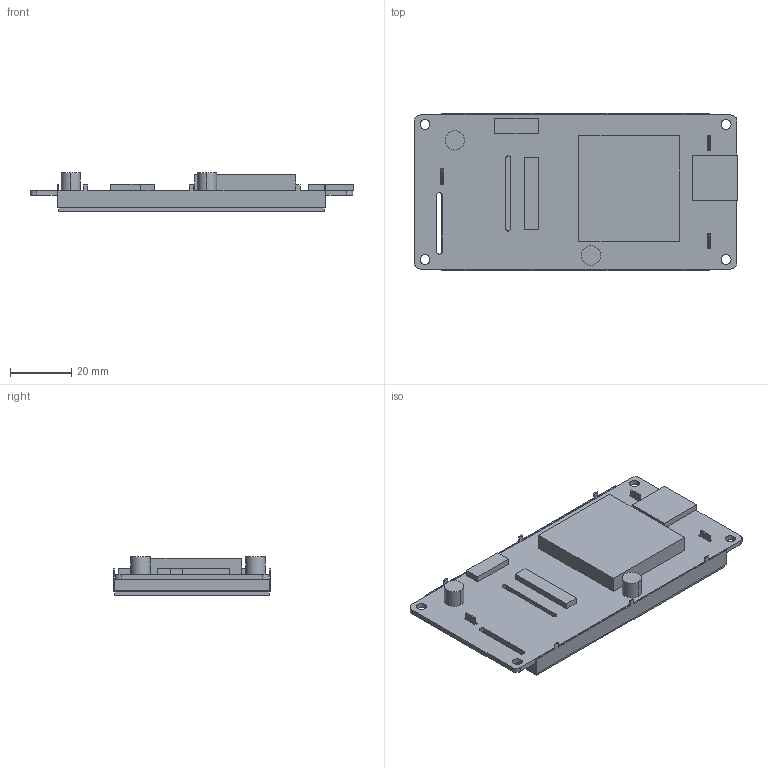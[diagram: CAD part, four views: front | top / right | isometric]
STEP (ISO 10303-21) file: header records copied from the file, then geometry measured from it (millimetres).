
FILE_DESCRIPTION((''),'2;1');
FILE_NAME('DMG80480T035-01WTR','2021-10-25T',('Administrator'),(''),'PRO/ENGINEER BY PARAMETRIC TECHNOLOGY CORPORATION, 2011310','PRO/ENGINEER BY PARAMETRIC TECHNOLOGY CORPORATION, 2011310','');
FILE_SCHEMA(('CONFIG_CONTROL_DESIGN','SHAPE_APPEARANCE_LAYERS_GROUPS'));
Length unit declared in the file: millimetre
Products named in the file (1): DMG80480T035-01WTR
Bounding box: 105.3 x 51.26 x 12.6 mm (x, y, z)
Volume: 30191.9 mm3; surface area: 32204.9 mm2
Topology: 1 solids, 2 shells, 165 faces, 468 edges, 304 vertices
Faces by surface type: plane 141, cylinder 24
Entity records: 6350 total; most frequent: CARTESIAN_POINT 937, ORIENTED_EDGE 936, DIRECTION 848, EDGE_CURVE 468, VECTOR 418, LINE 418, VERTEX_POINT 304, AXIS2_PLACEMENT_3D 215
